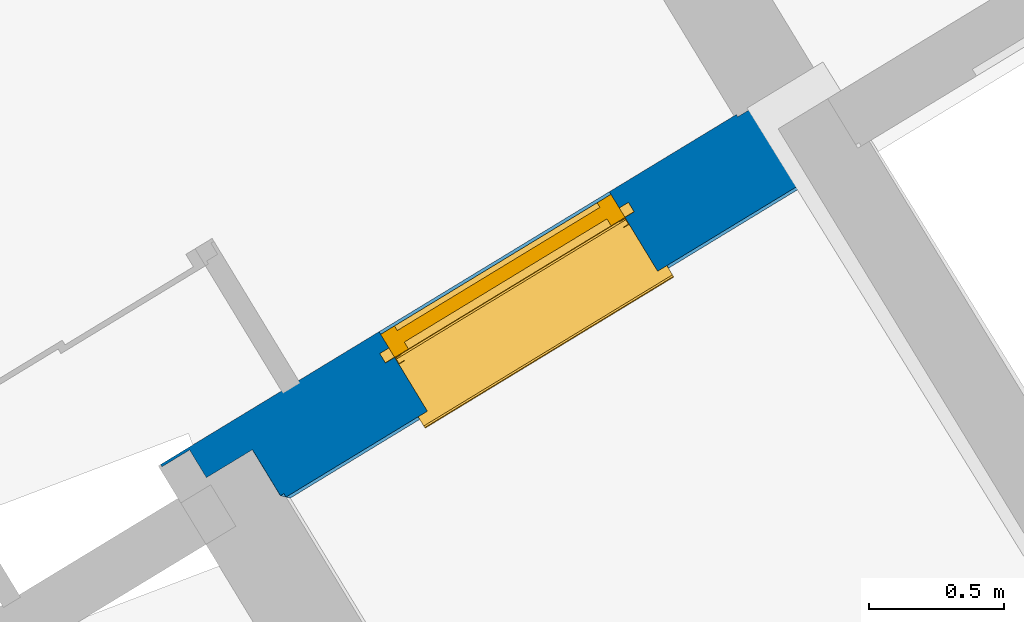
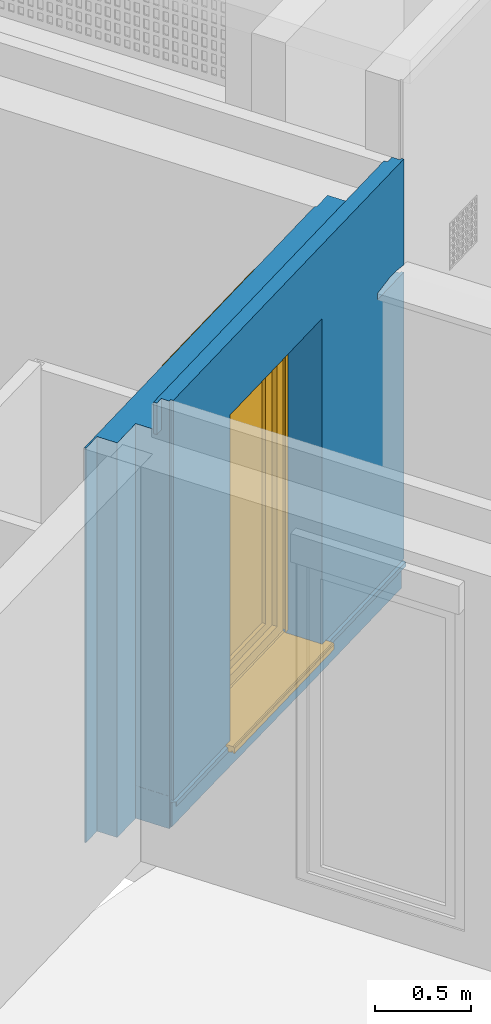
# One storey, part 34 of 119: 1 wall, 1 window, 1 opening.
"""IFC2X3 building model written with IfcOpenShell, lengths in metres."""

from ifc_helpers import new_model, entity, si_unit, converted_unit, derived_unit, money_unit, direction, frame, origin_with_axes, place, context, subcontext, project, spatial, open_shell, faceted_brep, surface_model, source, transform, mapped, material, material_list, type_object, element, fill, save


model = new_model("IFC2X3")

# Units and contexts
model_context = context("Model", 3, precision=1e-05, world=origin_with_axes(), true_north=direction((0.0, 1.0)))
body_context = subcontext(model_context, "Body", "Model", "MODEL_VIEW")
ifc_project = project(units=[si_unit("LENGTHUNIT", "METRE"), si_unit("AREAUNIT", "SQUARE_METRE"), si_unit("VOLUMEUNIT", "CUBIC_METRE"), converted_unit("PLANEANGLEUNIT", "DEGREE", entity("IfcPlaneAngleMeasure", 0.0174532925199), si_unit("PLANEANGLEUNIT", "RADIAN"), dimensions=[0, 0, 0, 0, 0, 0, 0]), si_unit("SOLIDANGLEUNIT", "STERADIAN"), money_unit("EUR"), converted_unit("TIMEUNIT", "Year", entity("IfcTimeMeasure", 31556926.0), si_unit("TIMEUNIT", "SECOND"), dimensions=[0, 0, 1, 0, 0, 0, 0]), si_unit("MASSUNIT", "GRAM", prefix="KILO"), si_unit("THERMODYNAMICTEMPERATUREUNIT", "DEGREE_CELSIUS"), si_unit("LUMINOUSINTENSITYUNIT", "LUMEN"), si_unit("ENERGYUNIT", "JOULE", prefix="MEGA"), derived_unit("THERMALCONDUCTANCEUNIT", [(si_unit("POWERUNIT", "WATT"), 1), (si_unit("LENGTHUNIT", "METRE"), -1), (si_unit("THERMODYNAMICTEMPERATUREUNIT", "KELVIN"), -1)]), derived_unit("SPECIFICHEATCAPACITYUNIT", [(si_unit("ENERGYUNIT", "JOULE"), 1), (si_unit("MASSUNIT", "GRAM", prefix="KILO"), -1), (si_unit("THERMODYNAMICTEMPERATUREUNIT", "KELVIN"), -1)]), derived_unit("MASSDENSITYUNIT", [(si_unit("MASSUNIT", "GRAM", prefix="KILO"), 1), (si_unit("VOLUMEUNIT", "CUBIC_METRE"), -1)])], contexts=[model_context])

# Site, building, storey
site_placement = place(None, origin_with_axes())
site = spatial("IfcSite", under=ifc_project, at=site_placement, Name="Site", CompositionType="ELEMENT")
building_placement = place(site_placement, origin_with_axes())
building = spatial("IfcBuilding", under=site, at=building_placement, Name="Bâtiment", CompositionType="ELEMENT")
storey_placement = place(building_placement, origin_with_axes())
storey = spatial("IfcBuildingStorey", under=building, at=storey_placement, Name="Rez-de-chaussée", CompositionType="ELEMENT", Elevation=0.0)

# Wall, opening, window
ifc_material_1 = material(Name="Métal - Aluminium")
ifc_material_2 = material(Name="Finition ext - Crépis")
ifc_material_3 = material(Name="Etanchéité - Bitume")
ifc_material_4 = material(Name="Béton cellulaire")
ifc_material_5 = material(Name="Mortier")
ifc_material_6 = material(Name="Isolation - Polystyrène expansé")
ifc_material_7 = material(Name="Bloc ELITHERM")
ifc_material_8 = material(Name="Isolation - Polystyrène extrudé")
ifc_material_9 = material(Name="Finition int - Plaque de plâtre")
ifc_material_list = material_list([ifc_material_1, ifc_material_2, ifc_material_3, ifc_material_4, ifc_material_5, ifc_material_6, ifc_material_7, ifc_material_8, ifc_material_9])
wall_type = type_object("IfcWallType", Name="Mur ALKERN + planelle 21 TERRASSE RDC 356 x 2720", PredefinedType="USERDEFINED")
wall_placement = place(storey_placement, frame((2.90181954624, 21.9372443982, 0.0), z_axis=(0.0, 0.0, 1.0), x_axis=(-0.854539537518, -0.519386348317, 0.0)))
wall = element("IfcWall", 1, at=wall_placement, inside=storey, type_object=wall_type, material=ifc_material_list, Name="Mue bloc ALKERN isolé", ObjectType="SOLIDWALL", context=body_context, shape_type="Brep", body=[
    faceted_brep([(0.886433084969, -0.03, 0.170774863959), (0.886433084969, -0.0035607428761, 0.162931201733), (7.00346625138e-09, -0.0035607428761, 0.162931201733), (7.0028356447e-09, -0.03, 0.170774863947), (0.886433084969, -0.0035607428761, 0.14), (0.886433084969, -0.0300000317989, 0.176532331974), (0.886433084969, -0.0300000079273, 0.2), (0.886433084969, -0.0310453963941, 0.2), (0.886433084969, -0.0310453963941, 0.169727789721), (0.886433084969, -0.03, 0.169414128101), (0.886433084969, -0.00479482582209, 0.161852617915), (0.886433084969, -0.00479482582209, 0.14), (1.88643308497, -0.0035607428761, 0.14), (1.88643308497, -0.0035607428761, 0.162931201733), (2.48857994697, -0.00356074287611, 0.162931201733), (2.48857994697, -0.0035607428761, 0.160000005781), (2.48857994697, -0.00356074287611, 0.133633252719), (7.00346625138e-09, -0.0035607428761, 0.133633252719), (7.00343605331e-09, -0.00479482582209, 0.133633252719), (7.00343605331e-09, -0.00479482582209, 0.161852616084), (7.0028356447e-09, -0.03, 0.169414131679), (7.00280899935e-09, -0.0310453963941, 0.169727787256), (7.00280899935e-09, -0.0310453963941, 0.207793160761), (7.0028356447e-09, -0.03, 0.207793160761), (7.0028356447e-09, -0.0300000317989, 0.176532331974), (0.886433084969, -0.03, 0.207793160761), (0.886433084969, -0.0310453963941, 0.207793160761), (2.48857994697, -0.00479482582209, 0.133633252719), (2.48857994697, -0.00479482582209, 0.160000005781), (2.48857994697, -0.00479482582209, 0.161852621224), (1.88643308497, -0.00479482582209, 0.161852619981), (1.88643308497, -0.00479482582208, 0.14), (1.88643308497, -0.03, 0.170774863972), (1.88643308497, -0.03, 0.169414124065), (1.88643308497, -0.0310453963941, 0.169727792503), (1.88643308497, -0.0310453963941, 0.2), (1.88643308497, -0.0300000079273, 0.2), (1.88643308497, -0.0300000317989, 0.176532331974), (2.51501920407, -0.03, 0.17077486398), (2.51043244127, -0.0254132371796, 0.169414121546), (2.48857994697, -0.00839012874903, 0.162931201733), (2.51043244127, -0.03, 0.169414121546), (2.51148976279, -0.0310453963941, 0.169727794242), (2.51501920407, -0.0310453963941, 0.17077486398), (2.51501923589, -0.0310453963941, 0.176532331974), (2.5150192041, -0.0310453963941, 0.207793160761), (1.88643308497, -0.0310453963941, 0.207793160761), (1.88643308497, -0.03, 0.207793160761), (2.5150192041, -0.03, 0.207793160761), (2.51501923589, -0.0300000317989, 0.176532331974)], [[[0, 1, 2, 3]], [[4, 1, 0, 5, 6, 7, 8, 9, 10, 11]], [[12, 13, 14, 15, 16, 17, 2, 1, 4]], [[18, 19, 20, 21, 22, 23, 24, 3, 2, 17]], [[5, 0, 3, 24]], [[6, 5, 24, 23, 25]], [[7, 6, 25, 26]], [[8, 7, 26, 22, 21]], [[9, 8, 21, 20]], [[10, 9, 20, 19]], [[11, 10, 19, 18, 27, 28, 29, 30, 31]], [[12, 4, 11, 31]], [[32, 13, 12, 31, 30, 33, 34, 35, 36, 37]], [[13, 32, 38, 39, 14]], [[14, 40, 29, 28, 15]], [[27, 16, 15, 28]], [[27, 18, 17, 16]], [[25, 23, 22, 26]], [[33, 30, 29, 40, 41]], [[34, 33, 41, 42]], [[35, 34, 42, 43, 44, 45, 46]], [[36, 35, 46, 47]], [[37, 36, 47, 48, 49]], [[32, 37, 49, 38]], [[41, 39, 38, 43, 42]], [[40, 14, 39, 41]], [[43, 38, 49, 44]], [[45, 44, 49, 48]], [[46, 45, 48, 47]]]),
    faceted_brep([(0.886433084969, -0.0150000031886, 0.2), (0.886433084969, -0.0150000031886, 0.176532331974), (7.00319269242e-09, -0.0150000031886, 0.176532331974), (7.00319269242e-09, -0.0150000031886, 2.0), (0.286675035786, -0.0150000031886, 2.0), (0.286675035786, -0.0150000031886, 2.04), (0.151135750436, -0.0150000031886, 2.05999999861), (0.0922056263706, -0.0150000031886, 2.05999999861), (7.00319269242e-09, -0.0150000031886, 2.04639425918), (7.00319269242e-09, -0.0150000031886, 2.72), (2.50001920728, -0.0150000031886, 2.72), (2.50001920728, -0.0150000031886, 0.176532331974), (1.88643308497, -0.0150000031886, 0.176532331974), (1.88643308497, -0.0150000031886, 0.2), (1.88643308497, -0.0150000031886, 2.25), (0.886433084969, -0.0150000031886, 2.25), (0.886433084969, -0.0299999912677, 0.2), (0.886433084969, -0.0300000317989, 0.176532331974), (7.00283742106e-09, -0.0300000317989, 0.176532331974), (7.0028356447e-09, -0.0300000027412, 2.0), (0.286783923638, -0.0299999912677, 2.0), (0.286783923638, -0.0299999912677, 2.04), (0.151244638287, -0.0299999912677, 2.0599999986), (0.092314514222, -0.0299999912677, 2.0599999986), (7.0028356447e-09, -0.0300000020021, 2.04637819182), (7.0028356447e-09, -0.0299999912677, 2.72), (2.50001920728, -0.0299999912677, 2.72), (2.50001920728, -0.0300000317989, 0.176532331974), (1.88643308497, -0.0300000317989, 0.176532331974), (1.88643308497, -0.0299999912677, 0.2), (1.88643308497, -0.0299999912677, 2.25), (0.886433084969, -0.0299999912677, 2.25)], [[[0, 1, 2, 3, 4, 5, 6, 7, 8, 9, 10, 11, 12, 13, 14, 15]], [[1, 0, 16, 17]], [[1, 17, 18, 2]], [[3, 2, 18, 19]], [[3, 19, 20, 4]], [[4, 20, 21, 5]], [[5, 21, 22, 6]], [[6, 22, 23, 7]], [[8, 7, 23, 24]], [[24, 25, 9, 8]], [[10, 9, 25, 26]], [[26, 27, 11, 10]], [[28, 12, 11, 27]], [[29, 13, 12, 28]], [[13, 29, 30, 14]], [[14, 30, 31, 15]], [[16, 0, 15, 31]], [[17, 16, 31, 30, 29, 28, 27, 26, 25, 24, 23, 22, 21, 20, 19, 18]]]),
    faceted_brep([(0.886433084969, -0.0300000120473, 0.160000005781), (0.886433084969, -0.02, 0.160000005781), (0.0149999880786, -0.02, 0.160000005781), (0.0149999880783, -0.0300000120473, 0.160000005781), (0.886433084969, -0.02, 0.14), (0.886433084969, -0.0300000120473, 0.14), (1.88643308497, -0.02, 0.14), (1.88643308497, -0.02, 0.160000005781), (2.50501920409, -0.02, 0.160000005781), (2.50501920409, -0.02, 0.01), (1.03528414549, -0.02, 0.01), (1.03528414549, -0.02, 0.0), (0.0149999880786, -0.02, 0.0), (0.0149999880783, -0.0300000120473, 0.0), (2.5050192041, -0.0300000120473, 0.0), (2.5050192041, -0.0300000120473, 0.160000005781), (1.88643308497, -0.0300000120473, 0.160000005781), (1.88643308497, -0.0300000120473, 0.14), (2.5050192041, -0.0291227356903, 0.0), (2.5050192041, -0.0291227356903, 0.01)], [[[0, 1, 2, 3]], [[4, 1, 0, 5]], [[6, 7, 8, 9, 10, 11, 12, 2, 1, 4]], [[3, 2, 12, 13]], [[5, 0, 3, 13, 14, 15, 16, 17]], [[6, 4, 5, 17]], [[16, 7, 6, 17]], [[7, 16, 15, 8]], [[15, 14, 18, 19, 9, 8]], [[10, 9, 19]], [[10, 19, 18, 11]], [[14, 13, 12, 11, 18]]]),
    faceted_brep([(0.0149999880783, -0.03, 2.51999999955), (0.0149999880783, -0.03, 2.72), (2.5150192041, -0.03, 2.72), (2.5150192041, -0.03, 2.51999999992), (0.0149999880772, -0.0780000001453, 2.72), (0.0149999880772, -0.0780000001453, 2.51999999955), (2.5150192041, -0.0780000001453, 2.72), (2.5150192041, -0.0780000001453, 2.51999999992)], [[[0, 1, 2, 3]], [[4, 1, 0, 5]], [[1, 4, 6, 2]], [[3, 2, 6, 7]], [[5, 0, 3, 7]], [[4, 5, 7, 6]]]),
    faceted_brep([(0.0, -0.098, 2.50999999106), (0.0, -0.03, 2.50999999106), (7.0028356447e-09, -0.03, 2.50955000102), (7.00121560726e-09, -0.098, 2.50955000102), (0.0149999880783, -0.03, 2.50999999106), (0.0149999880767, -0.098, 2.50999999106), (0.0149999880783, -0.03, 2.51999999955), (2.5150192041, -0.03, 2.52), (2.5150192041, -0.03, 2.50955), (2.5150192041, -0.098, 2.50955), (2.5150192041, -0.098, 2.52), (0.0149999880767, -0.098, 2.51999999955)], [[[0, 1, 2, 3]], [[4, 1, 0, 5]], [[4, 6, 7, 8, 2, 1]], [[8, 9, 3, 2]], [[5, 0, 3, 9, 10, 11]], [[11, 6, 4, 5]], [[6, 11, 10, 7]], [[8, 7, 10, 9]]]),
    faceted_brep([(2.56301920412, -0.0780000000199, 2.51999999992), (0.0629999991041, -0.0780000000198, 2.51999999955), (0.0629999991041, -0.0780000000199, 2.72), (2.56301920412, -0.0780000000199, 2.72), (2.56301920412, -0.0980000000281, 2.51999999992), (0.0629999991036, -0.0980000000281, 2.51999999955), (0.0629999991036, -0.0980000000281, 2.72), (2.56301920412, -0.0980000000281, 2.72)], [[[0, 1, 2, 3]], [[4, 5, 1, 0]], [[5, 6, 2, 1]], [[3, 2, 6, 7]], [[4, 0, 3, 7]], [[7, 6, 5, 4]]]),
    faceted_brep([(0.886433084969, -0.0310453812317, 0.16972779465), (0.886433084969, -0.03, 0.169414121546), (0.0149999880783, -0.03, 0.169414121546), (0.0149999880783, -0.0310453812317, 0.169727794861), (0.886433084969, -0.229999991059, 0.2), (0.886433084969, -0.229999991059, 0.14), (0.886433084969, -0.03, 0.14), (0.886433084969, -0.0300000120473, 0.160000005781), (0.886433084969, -0.0310453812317, 0.2), (0.886433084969, -0.0310453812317, 0.207793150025), (0.886433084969, -0.03, 0.207793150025), (0.886433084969, -0.03, 2.25), (0.886433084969, -0.218560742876, 2.25), (0.886433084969, -0.218560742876, 2.43), (0.886433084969, -0.229999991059, 2.43), (0.886433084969, -0.229999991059, 2.25), (0.0149999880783, -0.0300000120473, 0.160000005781), (0.0149999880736, -0.229999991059, 2.0), (0.0149999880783, -0.03, 2.0), (0.0149999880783, -0.03, 0.207793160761), (0.0149999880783, -0.0310453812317, 0.207793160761), (0.0149999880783, -0.03, 0.0), (0.0149999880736, -0.229999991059, 0.0), (2.5160645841, -0.229999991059, 0.169727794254), (2.51606458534, -0.229999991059, 0.207793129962), (2.51501920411, -0.229999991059, 0.207793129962), (2.51501920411, -0.229999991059, 2.50955001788), (0.0149999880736, -0.229999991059, 2.50955), (0.0149999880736, -0.229999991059, 2.04837733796), (0.0937663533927, -0.229999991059, 2.05999999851), (0.152696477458, -0.229999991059, 2.05999999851), (0.288235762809, -0.229999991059, 2.04), (0.288235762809, -0.229999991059, 2.0), (2.51501920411, -0.229999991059, 0.0), (2.51501921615, -0.229999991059, 0.160000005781), (2.51501920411, -0.229999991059, 0.169414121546), (1.88643308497, -0.229999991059, 2.43), (1.88643308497, -0.229999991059, 2.25), (1.88643308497, -0.229999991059, 0.2), (1.88643308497, -0.229999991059, 0.14), (1.88643308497, -0.03, 0.14), (1.88643308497, -0.0300000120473, 0.160000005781), (2.51501921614, -0.0300000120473, 0.160000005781), (2.5150192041, -0.03, 0.0), (0.151244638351, -0.03, 2.0599999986), (0.0923145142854, -0.03, 2.0599999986), (0.0149999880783, -0.03, 2.04859156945), (0.0149999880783, -0.03, 2.50955), (2.5150192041, -0.03, 2.50955001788), (2.5150192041, -0.03, 0.207793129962), (1.88643308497, -0.03, 0.207793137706), (1.88643308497, -0.03, 2.25), (0.286783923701, -0.03, 2.0), (0.286783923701, -0.03, 2.04), (1.88643308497, -0.218560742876, 2.25), (1.88643308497, -0.218560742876, 2.43), (2.51606458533, -0.0310453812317, 0.207793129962), (2.51606458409, -0.0310453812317, 0.169727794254), (2.5150192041, -0.0310453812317, 0.207793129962), (2.5150192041, -0.0979999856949, 2.50955001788), (0.0149999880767, -0.0979999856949, 2.50955), (2.5150192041, -0.03, 0.169414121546), (1.88643308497, -0.0310453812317, 0.2), (1.88643308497, -0.0310453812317, 0.169727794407), (1.88643308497, -0.03, 0.169414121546), (1.88643308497, -0.0310453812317, 0.207793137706)], [[[0, 1, 2, 3]], [[4, 5, 6, 7, 1, 0, 8, 9, 10, 11, 12, 13, 14, 15]], [[1, 7, 16, 2]], [[17, 18, 19, 20, 3, 2, 16, 21, 22]], [[8, 0, 3, 20, 9]], [[23, 24, 25, 26, 27, 28, 29, 30, 31, 32, 17, 22, 33, 34, 35], [5, 4, 15, 14, 36, 37, 38, 39]], [[40, 6, 5, 39]], [[40, 41, 42, 43, 21, 16, 7, 6]], [[20, 19, 10, 9]], [[44, 45, 46, 47, 48, 49, 50, 51, 11, 10, 19, 18, 52, 53]], [[12, 11, 51, 54]], [[54, 55, 13, 12]], [[14, 13, 55, 36]], [[32, 52, 18, 17]], [[43, 33, 22, 21]], [[56, 24, 23, 57]], [[58, 25, 24, 56]], [[48, 59, 26, 25, 58, 49]], [[26, 59, 60, 27]], [[28, 27, 60, 47, 46]], [[29, 28, 46, 45]], [[29, 45, 44, 30]], [[30, 44, 53, 31]], [[31, 53, 52, 32]], [[34, 33, 43, 42]], [[35, 34, 42, 61]], [[61, 57, 23, 35]], [[62, 63, 64, 41, 40, 39, 38, 37, 36, 55, 54, 51, 50, 65]], [[41, 64, 61, 42]], [[59, 48, 47, 60]], [[49, 58, 65, 50]], [[63, 62, 65, 58, 56, 57]], [[64, 63, 57, 61]]]),
    faceted_brep([(0.886433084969, -0.289560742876, 0.2), (0.886433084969, -0.289560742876, 0.14), (0.886433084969, -0.22999997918, 0.14), (0.886433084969, -0.22999997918, 0.2), (0.886433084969, -0.22999997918, 2.25), (0.886433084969, -0.22999997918, 2.43), (0.886433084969, -0.350000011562, 2.43), (0.886433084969, -0.350000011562, 2.25), (0.886433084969, -0.350000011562, 0.2), (1.88643308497, -0.289560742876, 0.2), (1.88643308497, -0.289560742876, 0.14), (1.88643308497, -0.22999997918, 0.14), (0.214999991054, -0.22999997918, 2.50955), (2.71501918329, -0.22999997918, 2.50955001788), (2.71501918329, -0.22999997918, 0.0), (0.214999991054, -0.22999997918, 0.0), (0.214999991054, -0.22999997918, 2.0), (0.288235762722, -0.22999997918, 2.0), (0.288235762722, -0.22999997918, 2.04), (0.214999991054, -0.22999997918, 2.05080657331), (1.88643308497, -0.22999997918, 0.2), (1.88643308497, -0.22999997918, 2.25), (1.88643308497, -0.22999997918, 2.43), (1.88643308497, -0.350000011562, 2.43), (2.71501918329, -0.350000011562, 0.0), (2.71501918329, -0.350000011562, 2.50955001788), (0.214999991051, -0.350000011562, 2.50955), (0.214999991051, -0.350000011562, 2.05093511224), (0.289106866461, -0.350000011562, 2.04), (0.289106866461, -0.350000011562, 2.0), (0.214999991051, -0.350000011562, 2.0), (0.214999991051, -0.350000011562, 0.0), (1.88643308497, -0.350000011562, 2.25), (1.88643308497, -0.350000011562, 0.2)], [[[0, 1, 2, 3, 4, 5, 6, 7, 8]], [[0, 9, 10, 1]], [[11, 2, 1, 10]], [[12, 13, 14, 15, 16, 17, 18, 19], [11, 20, 21, 22, 5, 4, 3, 2]], [[22, 23, 6, 5]], [[24, 25, 26, 27, 28, 29, 30, 31], [8, 7, 6, 23, 32, 33]], [[9, 0, 8, 33]], [[20, 11, 10, 9, 33, 32, 23, 22, 21]], [[13, 12, 26, 25]], [[14, 13, 25, 24]], [[24, 31, 15, 14]], [[31, 30, 16, 15]], [[29, 17, 16, 30]], [[28, 18, 17, 29]], [[28, 27, 19, 18]], [[12, 19, 27, 26]]]),
    faceted_brep([(2.83501921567, -0.350000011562, 0.0), (0.335000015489, -0.350000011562, 0.0), (0.335000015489, -0.350000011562, 2.50955), (2.83501921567, -0.350000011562, 2.50955001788), (1.88643308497, -0.350000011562, 2.25), (1.88643308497, -0.350000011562, 2.43), (0.886433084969, -0.350000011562, 2.43), (0.886433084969, -0.350000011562, 2.25), (0.886433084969, -0.350000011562, 0.2), (1.88643308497, -0.350000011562, 0.2), (2.83501921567, -0.359999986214, 0.0), (0.335000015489, -0.359999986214, 0.0), (0.335000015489, -0.359999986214, 2.50955), (2.83501921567, -0.359999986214, 2.50955001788), (1.88643308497, -0.359999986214, 2.25), (1.88643308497, -0.359999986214, 2.43), (1.88643308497, -0.359999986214, 0.2), (0.886433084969, -0.359999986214, 2.43), (0.886433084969, -0.359999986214, 2.25), (0.886433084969, -0.359999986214, 0.2)], [[[0, 1, 2, 3], [4, 5, 6, 7, 8, 9]], [[1, 0, 10, 11]], [[2, 1, 11, 12]], [[12, 13, 3, 2]], [[13, 10, 0, 3]], [[14, 15, 5, 4, 9, 16]], [[6, 5, 15, 17]], [[7, 6, 17, 18, 19, 8]], [[8, 19, 16, 9]], [[11, 10, 13, 12], [15, 14, 16, 19, 18, 17]]]),
])
opening_placement = place(wall_placement, frame((1.38643308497, 0.0, 0.2), z_axis=(0.0, 0.0, 1.0), x_axis=(1.0, 0.0, 0.0)))
opening = element("IfcOpeningElement", 2, at=opening_placement, cuts=wall, Name="MEN 08", context=body_context, shape_type="Brep", body=[
    faceted_brep([(-0.5, -0.248560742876, 0.0), (0.5, -0.248560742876, 0.0), (0.5, -0.849999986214, 0.0), (-0.5, -0.849999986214, 0.0), (-0.5, -0.248560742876, 2.05), (0.5, -0.248560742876, 2.05), (0.5, -0.849999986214, 2.05), (-0.5, -0.849999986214, 2.05)], [[[0, 1, 2, 3]], [[0, 4, 5, 1]], [[1, 5, 6, 2]], [[3, 2, 6, 7]], [[4, 0, 3, 7]], [[5, 4, 7, 6]]]),
    faceted_brep([(-0.5, -0.248560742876, 0.0), (-0.5, -0.248560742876, 2.05), (-0.5, 0.352878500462, 2.05), (-0.5, 0.352878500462, 0.0), (0.5, -0.248560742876, 0.0), (0.5, -0.248560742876, 2.05), (0.5, 0.352878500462, 2.05), (0.5, 0.352878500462, 0.0)], [[[0, 1, 2, 3]], [[0, 4, 5, 1]], [[1, 5, 6, 2]], [[3, 2, 6, 7]], [[4, 0, 3, 7]], [[5, 4, 7, 6]]]),
    faceted_brep([(-0.5, -0.248560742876, 0.0), (-0.5, -0.248560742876, 2.05), (-0.5, 0.352878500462, 2.05), (-0.5, 0.352878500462, 0.0), (0.5, -0.248560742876, 0.0), (0.5, -0.248560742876, 2.05), (0.5, 0.352878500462, 2.05), (0.5, 0.352878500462, 0.0)], [[[0, 1, 2, 3]], [[0, 4, 5, 1]], [[1, 5, 6, 2]], [[3, 2, 6, 7]], [[4, 0, 3, 7]], [[5, 4, 7, 6]]]),
    faceted_brep([(-0.5, -0.218560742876, 2.05), (0.5, -0.218560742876, 2.05), (0.5, -0.819999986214, 2.05), (-0.5, -0.819999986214, 2.05), (-0.5, -0.218560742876, 2.23), (0.5, -0.218560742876, 2.23), (0.5, -0.819999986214, 2.23), (-0.5, -0.819999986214, 2.23)], [[[0, 1, 2, 3]], [[0, 4, 5, 1]], [[1, 5, 6, 2]], [[3, 2, 6, 7]], [[4, 0, 3, 7]], [[5, 4, 7, 6]]]),
    faceted_brep([(-0.5, -0.289560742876, 0.0), (0.5, -0.289560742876, 0.0), (0.5, 0.311878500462, 0.0), (-0.5, 0.311878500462, 0.0), (-0.5, -0.289560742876, -0.06), (0.5, -0.289560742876, -0.06), (0.5, 0.311878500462, -0.06), (-0.5, 0.311878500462, -0.06)], [[[0, 1, 2, 3]], [[0, 4, 5, 1]], [[1, 5, 6, 2]], [[3, 2, 6, 7]], [[4, 0, 3, 7]], [[5, 4, 7, 6]]]),
])
window_style = type_object("IfcWindowStyle", Name="Baie générique 2017 v2", ConstructionType="NOTDEFINED", OperationType="NOTDEFINED", ParameterTakesPrecedence=False, Sizeable=False)
shared_shape = source(origin_with_axes(), body_context, "Body", "SurfaceModel", [
    faceted_brep([(0.5, 0.1, 0.0), (0.5, 0.0, 0.0), (-0.5, 0.0, 0.0), (-0.5, 0.1, 0.0), (0.5, 0.1, 2.05), (0.5, 0.0, 2.05), (-0.5, 0.0, 2.05), (0.44, 0.0, 0.05), (-0.44, 0.0, 0.05), (-0.44, 0.0, 2.0), (0.44, 0.0, 2.0), (-0.5, 0.1, 2.05), (0.44, 0.1, 0.05), (0.44, 0.1, 2.0), (-0.44, 0.1, 2.0), (-0.44, 0.1, 0.05)], [[[0, 1, 2, 3]], [[4, 5, 1, 0]], [[1, 5, 6, 2], [7, 8, 9, 10]], [[3, 2, 6, 11]], [[0, 3, 11, 4], [12, 13, 14, 15]], [[11, 6, 5, 4]], [[15, 8, 7, 12]], [[14, 9, 8, 15]], [[13, 10, 9, 14]], [[12, 7, 10, 13]]]),
    faceted_brep([(-0.44, 0.08, 2.0), (0.44, 0.08, 2.0), (0.44, 0.08, 0.05), (-0.44, 0.08, 0.05), (-0.37, 0.08, 1.93), (-0.37, 0.08, 0.1), (0.37, 0.08, 0.1), (0.37, 0.08, 1.93), (-0.44, 0.03, 2.0), (0.44, 0.03, 2.0), (0.44, 0.03, 0.05), (-0.44, 0.03, 0.05), (-0.37, 0.03, 1.93), (-0.37, 0.03, 0.1), (0.37, 0.03, 0.1), (0.37, 0.03, 1.93)], [[[0, 1, 2, 3], [4, 5, 6, 7]], [[0, 8, 9, 1]], [[9, 10, 2, 1]], [[10, 11, 3, 2]], [[3, 11, 8, 0]], [[4, 12, 13, 5]], [[13, 14, 6, 5]], [[14, 15, 7, 6]], [[7, 15, 12, 4]], [[9, 8, 11, 10], [13, 12, 15, 14]]]),
    surface_model("IfcShellBasedSurfaceModel", [(0.44, 0.08, 0.05), (0.44, 0.08, 2.0), (0.44, 0.055, 2.0), (0.44, 0.055, 0.05)], [open_shell([[[0, 1, 2, 3]]])]),
    surface_model("IfcShellBasedSurfaceModel", [(-0.44, 0.08, 0.05), (-0.44, 0.08, 2.0), (-0.44, 0.055, 2.0), (-0.44, 0.055, 0.05)], [open_shell([[[0, 1, 2, 3]]])]),
    surface_model("IfcShellBasedSurfaceModel", [(0.44, 0.08, 0.05), (-0.44, 0.08, 0.05), (-0.44, 0.055, 0.05), (0.44, 0.055, 0.05)], [open_shell([[[0, 1, 2, 3]]])]),
    surface_model("IfcShellBasedSurfaceModel", [(0.44, 0.08, 2.0), (-0.44, 0.08, 2.0), (-0.44, 0.055, 2.0), (0.44, 0.055, 2.0)], [open_shell([[[0, 1, 2, 3]]])]),
    surface_model("IfcShellBasedSurfaceModel", [(0.44, 0.055, 0.05), (0.44, 0.055, 2.0), (0.44, 0.03, 2.0), (0.44, 0.03, 0.05)], [open_shell([[[0, 1, 2, 3]]])]),
    surface_model("IfcShellBasedSurfaceModel", [(-0.44, 0.055, 0.05), (-0.44, 0.055, 2.0), (-0.44, 0.03, 2.0), (-0.44, 0.03, 0.05)], [open_shell([[[0, 1, 2, 3]]])]),
    surface_model("IfcShellBasedSurfaceModel", [(0.44, 0.055, 0.05), (-0.44, 0.055, 0.05), (-0.44, 0.03, 0.05), (0.44, 0.03, 0.05)], [open_shell([[[0, 1, 2, 3]]])]),
    surface_model("IfcShellBasedSurfaceModel", [(0.44, 0.055, 2.0), (-0.44, 0.055, 2.0), (-0.44, 0.03, 2.0), (0.44, 0.03, 2.0)], [open_shell([[[0, 1, 2, 3]]])]),
    faceted_brep([(0.37, 0.0575, 0.1), (0.37, 0.0525, 0.1), (-0.37, 0.0525, 0.1), (-0.37, 0.0575, 0.1), (0.37, 0.0575, 1.93), (0.37, 0.0525, 1.93), (-0.37, 0.0525, 1.93), (-0.37, 0.0575, 1.93)], [[[0, 1, 2, 3]], [[4, 5, 1, 0]], [[1, 5, 6, 2]], [[3, 2, 6, 7]], [[0, 3, 7, 4]], [[7, 6, 5, 4]]]),
    faceted_brep([(0.5, -0.03, 0.0), (0.5, -0.03, 2.05), (0.475, -0.03, 2.05), (0.475, -0.03, 0.0), (0.5, -0.002, 0.0), (0.5, -0.002, 2.05), (0.475, -0.002, 2.05), (0.475, -0.004, 2.05), (0.498, -0.004, 2.05), (0.498, -0.028, 2.05), (0.475, -0.028, 2.05), (0.475, -0.028, 0.0), (0.498, -0.028, 0.0), (0.498, -0.004, 0.0), (0.475, -0.004, 0.0), (0.475, -0.002, 0.0)], [[[0, 1, 2, 3]], [[4, 5, 1, 0]], [[1, 5, 6, 7, 8, 9, 10, 2]], [[3, 2, 10, 11]], [[0, 3, 11, 12, 13, 14, 15, 4]], [[15, 6, 5, 4]], [[14, 7, 6, 15]], [[13, 8, 7, 14]], [[12, 9, 8, 13]], [[11, 10, 9, 12]]]),
    faceted_brep([(-0.5, -0.03, 0.0), (-0.475, -0.03, 0.0), (-0.475, -0.03, 2.05), (-0.5, -0.03, 2.05), (-0.5, -0.002, 0.0), (-0.475, -0.002, 0.0), (-0.475, -0.004, 0.0), (-0.498, -0.004, 0.0), (-0.498, -0.028, 0.0), (-0.475, -0.028, 0.0), (-0.475, -0.028, 2.05), (-0.498, -0.028, 2.05), (-0.498, -0.004, 2.05), (-0.475, -0.004, 2.05), (-0.475, -0.002, 2.05), (-0.5, -0.002, 2.05)], [[[0, 1, 2, 3]], [[0, 4, 5, 6, 7, 8, 9, 1]], [[1, 9, 10, 2]], [[3, 2, 10, 11, 12, 13, 14, 15]], [[4, 0, 3, 15]], [[5, 4, 15, 14]], [[6, 5, 14, 13]], [[7, 6, 13, 12]], [[8, 7, 12, 11]], [[9, 8, 11, 10]]]),
    faceted_brep([(-0.498, -0.028, 2.05), (-0.498, -0.028, 2.228), (0.498, -0.028, 2.228), (0.498, -0.028, 2.05), (-0.498, -0.03, 2.05), (-0.498, -0.03, 2.23), (-0.498, 0.17, 2.23), (-0.498, 0.17, 2.05), (-0.498, 0.168, 2.05), (-0.498, 0.168, 2.228), (0.498, 0.168, 2.228), (0.498, 0.168, 2.05), (0.498, 0.17, 2.05), (0.498, 0.17, 2.23), (0.498, -0.03, 2.23), (0.498, -0.03, 2.05)], [[[0, 1, 2, 3]], [[0, 4, 5, 6, 7, 8, 9, 1]], [[1, 9, 10, 2]], [[3, 2, 10, 11, 12, 13, 14, 15]], [[4, 0, 3, 15]], [[5, 4, 15, 14]], [[6, 5, 14, 13]], [[7, 6, 13, 12]], [[8, 7, 12, 11]], [[9, 8, 11, 10]]]),
    faceted_brep([(-0.498, 0.0724697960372, 2.12436337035), (-0.498, 0.0555495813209, 2.12050144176), (-0.498, 0.041980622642, 2.13132232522), (-0.498, 0.041980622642, 2.14867767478), (-0.498, 0.0555495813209, 2.15949855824), (-0.498, 0.0724697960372, 2.15563662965), (-0.498, 0.08, 2.14), (0.498, 0.0724697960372, 2.12436337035), (0.498, 0.0555495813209, 2.12050144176), (0.498, 0.041980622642, 2.13132232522), (0.498, 0.041980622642, 2.14867767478), (0.498, 0.0555495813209, 2.15949855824), (0.498, 0.0724697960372, 2.15563662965), (0.498, 0.08, 2.14)], [[[0, 1, 2, 3, 4, 5, 6]], [[1, 0, 7, 8]], [[2, 1, 8, 9]], [[3, 2, 9, 10]], [[4, 3, 10, 11]], [[5, 4, 11, 12]], [[6, 5, 12, 13]], [[0, 6, 13, 7]], [[7, 13, 12, 11, 10, 9, 8]]]),
    faceted_brep([(-0.488, 0.130275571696, 2.10615706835), (-0.488, 0.108632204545, 2.07901714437), (-0.488, 0.0773566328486, 2.06395562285), (-0.488, 0.0426433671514, 2.06395562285), (-0.488, 0.011367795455, 2.07901714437), (-0.488, -0.0102755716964, 2.10615706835), (-0.488, -0.018, 2.14), (-0.488, -0.0102755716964, 2.17384293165), (-0.488, 0.011367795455, 2.20098285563), (-0.488, 0.0426433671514, 2.21604437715), (-0.488, 0.0773566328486, 2.21604437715), (-0.488, 0.108632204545, 2.20098285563), (-0.488, 0.130275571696, 2.17384293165), (-0.488, 0.138, 2.14), (0.488, 0.130275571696, 2.10615706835), (0.488, 0.108632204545, 2.07901714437), (0.488, 0.0773566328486, 2.06395562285), (0.488, 0.0426433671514, 2.06395562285), (0.488, 0.011367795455, 2.07901714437), (0.488, -0.0102755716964, 2.10615706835), (0.488, -0.018, 2.14), (0.488, -0.0102755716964, 2.17384293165), (0.488, 0.011367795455, 2.20098285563), (0.488, 0.0426433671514, 2.21604437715), (0.488, 0.0773566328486, 2.21604437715), (0.488, 0.108632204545, 2.20098285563), (0.488, 0.130275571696, 2.17384293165), (0.488, 0.138, 2.14)], [[[0, 1, 2, 3, 4, 5, 6, 7, 8, 9, 10, 11, 12, 13]], [[1, 0, 14, 15]], [[2, 1, 15, 16]], [[3, 2, 16, 17]], [[4, 3, 17, 18]], [[5, 4, 18, 19]], [[6, 5, 19, 20]], [[7, 6, 20, 21]], [[8, 7, 21, 22]], [[9, 8, 22, 23]], [[10, 9, 23, 24]], [[11, 10, 24, 25]], [[12, 11, 25, 26]], [[13, 12, 26, 27]], [[0, 13, 27, 14]], [[14, 27, 26, 25, 24, 23, 22, 21, 20, 19, 18, 17, 16, 15]]]),
    faceted_brep([(-0.5, 0.17, 2.05), (-0.5, 0.17, 2.23), (-0.498, 0.17, 2.23), (-0.498, 0.17, 2.05), (-0.5, -0.03, 2.05), (-0.5, -0.03, 2.23), (-0.498, -0.03, 2.23), (-0.498, -0.03, 2.05)], [[[0, 1, 2, 3]], [[0, 4, 5, 1]], [[1, 5, 6, 2]], [[3, 2, 6, 7]], [[4, 0, 3, 7]], [[5, 4, 7, 6]]]),
    faceted_brep([(0.498, 0.17, 2.05), (0.498, 0.17, 2.23), (0.5, 0.17, 2.23), (0.5, 0.17, 2.05), (0.498, -0.03, 2.05), (0.498, -0.03, 2.23), (0.5, -0.03, 2.23), (0.5, -0.03, 2.05)], [[[0, 1, 2, 3]], [[0, 4, 5, 1]], [[1, 5, 6, 2]], [[3, 2, 6, 7]], [[4, 0, 3, 7]], [[5, 4, 7, 6]]]),
    faceted_brep([(-0.498, -0.004, 2.05), (-0.498, 0.168, 2.05), (0.498, 0.168, 2.05), (0.498, -0.004, 2.05), (-0.498, -0.004, 2.052), (-0.498, 0.168, 2.052), (0.498, 0.168, 2.052), (0.498, -0.004, 2.052)], [[[0, 1, 2, 3]], [[0, 4, 5, 1]], [[1, 5, 6, 2]], [[3, 2, 6, 7]], [[4, 0, 3, 7]], [[5, 4, 7, 6]]]),
    faceted_brep([(-0.488, -0.006, 2.05), (-0.488, -0.006, 2.14), (0.488, -0.006, 2.14), (0.488, -0.006, 2.05), (-0.488, -0.026, 2.05), (-0.488, -0.026, 2.14), (0.488, -0.026, 2.14), (0.488, -0.026, 2.05)], [[[0, 1, 2, 3]], [[1, 0, 4, 5]], [[2, 1, 5, 6]], [[3, 2, 6, 7]], [[4, 0, 3, 7]], [[5, 4, 7, 6]]]),
    faceted_brep([(-0.5, -0.00167949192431, -0.01), (0.5, -0.00167949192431, -0.01), (0.5, 0.0, -0.00373205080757), (0.54, 0.0, -0.00373205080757), (0.54, 0.001, 0.0), (-0.54, 0.001, 0.0), (-0.54, 0.0, -0.00373205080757), (-0.5, 0.0, -0.00373205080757), (-0.5, -0.009, -0.0173205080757), (0.5, -0.009, -0.0173205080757), (0.5, -0.233560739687, -0.02), (0.5, -0.233560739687, -0.06), (0.5, 0.0, -0.06), (0.5, -0.019, -0.02), (0.54, 0.0, -0.06), (0.54, 0.041, -0.06), (0.54, 0.041, 0.0), (-0.54, 0.041, 0.0), (-0.54, 0.041, -0.06), (-0.54, 0.0, -0.06), (-0.5, 0.0, -0.06), (-0.5, -0.233560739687, -0.06), (-0.5, -0.233560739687, -0.02), (-0.5, -0.019, -0.02), (0.54, -0.233560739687, -0.02), (0.54, -0.233560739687, -0.06), (0.54, -0.263560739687, -0.06), (-0.54, -0.263560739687, -0.06), (-0.54, -0.233560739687, -0.06), (-0.54, -0.233560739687, -0.02), (-0.54, -0.273560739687, -0.02), (0.54, -0.273560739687, -0.02), (0.54, -0.283560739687, -0.03), (0.54, -0.283560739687, -0.06), (0.54, -0.273560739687, -0.06), (0.54, -0.273560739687, -0.05), (0.54, -0.263560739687, -0.05), (0.54, -0.280631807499, -0.0229289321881), (-0.54, -0.263560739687, -0.05), (-0.54, -0.273560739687, -0.05), (-0.54, -0.273560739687, -0.06), (-0.54, -0.283560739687, -0.06), (-0.54, -0.283560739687, -0.03), (-0.54, -0.280631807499, -0.0229289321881)], [[[0, 1, 2, 3, 4, 5, 6, 7]], [[8, 9, 1, 0]], [[10, 11, 12, 2, 1, 9, 13]], [[3, 2, 12, 14]], [[4, 3, 14, 15, 16]], [[16, 17, 5, 4]], [[6, 5, 17, 18, 19]], [[19, 20, 7, 6]], [[7, 20, 21, 22, 23, 8, 0]], [[23, 13, 9, 8]], [[10, 24, 25, 11]], [[21, 20, 19, 18, 15, 14, 12, 11, 25, 26, 27, 28]], [[22, 29, 30, 31, 24, 10, 13, 23]], [[15, 18, 17, 16]], [[22, 21, 28, 29]], [[32, 33, 34, 35, 36, 26, 25, 24, 31, 37]], [[36, 38, 27, 26]], [[28, 27, 38, 39, 40, 41, 42, 43, 30, 29]], [[31, 30, 43, 37]], [[32, 42, 41, 33]], [[33, 41, 40, 34]], [[34, 40, 39, 35]], [[35, 39, 38, 36]], [[37, 43, 42, 32]]]),
])
window_placement = place(opening_placement, frame((0.5, 0.0, 0.0), z_axis=(0.0, 0.0, 1.0), x_axis=(-1.0, 0.0, 0.0)))
window = element("IfcWindow", 3, at=window_placement, inside=storey, type_object=window_style, Name="MEN 08", ObjectType="WINDOW", OverallHeight=2.05, OverallWidth=1.0, context=body_context, shape_type="MappedRepresentation", body=[
    mapped(shared_shape, transform((0.5, 0.248560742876, 0.0))),
])
fill(opening, window)

save(model, "model.ifc")
